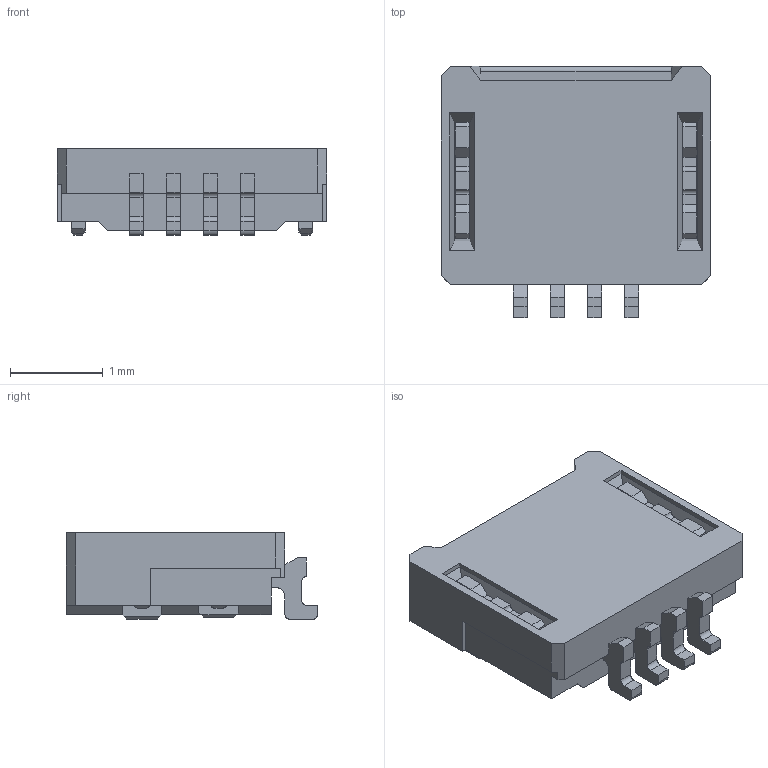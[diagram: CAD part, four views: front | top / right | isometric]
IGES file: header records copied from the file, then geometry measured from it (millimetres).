
Start section: SolidWorks IGES file using analytic representation for surfaces
Global section: file name: Q:\Kamikawa_Hisako\170725\00_6824_604_000_846+.IGS; native system: SolidWorks 2014; preprocessor: SolidWorks 2014; author: 151066016; date: 170725.155724; units: millimetre
Bounding box: 2.9 x 2.7 x 0.93 mm (x, y, z)
Surface area: 35 mm2 (no closed solid volume)
Topology: 0 solids, 0 shells, 198 faces, 1214 edges, 1214 vertices
Faces by surface type: bspline 165, revolution 33
